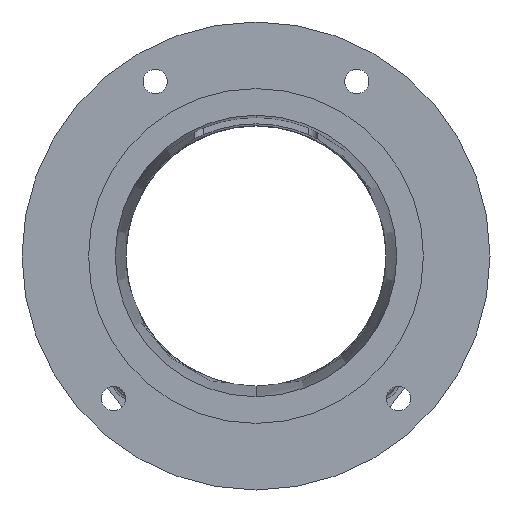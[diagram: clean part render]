
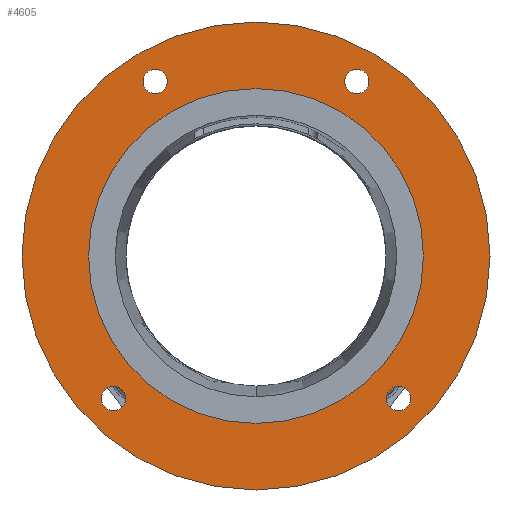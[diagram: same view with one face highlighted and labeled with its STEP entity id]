
A CAD part, front view. The second image highlights one B-rep face of the part: STEP entity #4605.
In plain terms, the highlighted planar face has unit normal (0, -1, 0).
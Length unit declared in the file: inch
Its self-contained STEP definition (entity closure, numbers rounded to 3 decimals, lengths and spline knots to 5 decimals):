
#29 = EDGE_LOOP ( 'NONE', ( #7901, #8510 ) ) ;
#73 = CARTESIAN_POINT ( 'NONE',  ( 2.74004, 0., -2.74004 ) ) ;
#101 = FACE_BOUND ( 'NONE', #5122, .T. ) ;
#136 = CARTESIAN_POINT ( 'NONE',  ( -2.74004, 0., -2.50566 ) ) ;
#143 = DIRECTION ( 'NONE',  ( 0., -1., 0. ) ) ;
#221 = DIRECTION ( 'NONE',  ( 0., -1., 0. ) ) ;
#519 = CARTESIAN_POINT ( 'NONE',  ( 0., 0., 3.2195 ) ) ;
#567 = CARTESIAN_POINT ( 'NONE',  ( 0., 0., -3.2195 ) ) ;
#625 = VERTEX_POINT ( 'NONE', #5411 ) ;
#975 = AXIS2_PLACEMENT_3D ( 'NONE', #4745, #4726, #4714 ) ;
#1123 = CIRCLE ( 'NONE', #6465, 4.5 ) ;
#1143 = DIRECTION ( 'NONE',  ( 0., 1., 0. ) ) ;
#1146 = VERTEX_POINT ( 'NONE', #519 ) ;
#1157 = AXIS2_PLACEMENT_3D ( 'NONE', #3018, #2983, #2773 ) ;
#1337 = DIRECTION ( 'NONE',  ( 0., -1., 0. ) ) ;
#1502 = EDGE_LOOP ( 'NONE', ( #8798, #8752 ) ) ;
#1537 = EDGE_CURVE ( 'NONE', #5185, #1625, #5261, .T. ) ;
#1547 = VERTEX_POINT ( 'NONE', #4983 ) ;
#1563 = FACE_OUTER_BOUND ( 'NONE', #7885, .T. ) ;
#1625 = VERTEX_POINT ( 'NONE', #3725 ) ;
#1769 = DIRECTION ( 'NONE',  ( 0., 0., -1. ) ) ;
#1804 = DIRECTION ( 'NONE',  ( 0., -1., 0. ) ) ;
#1809 = FACE_BOUND ( 'NONE', #7681, .T. ) ;
#1825 = CARTESIAN_POINT ( 'NONE',  ( 1.9375, 0., 3.35585 ) ) ;
#2072 = CARTESIAN_POINT ( 'NONE',  ( 0., 0., 0. ) ) ;
#2285 = DIRECTION ( 'NONE',  ( 0., 0., -1. ) ) ;
#2298 = DIRECTION ( 'NONE',  ( 0., -1., 0. ) ) ;
#2316 = CARTESIAN_POINT ( 'NONE',  ( -2.74004, 0., -2.74004 ) ) ;
#2319 = DIRECTION ( 'NONE',  ( 0., -1., 0. ) ) ;
#2515 = EDGE_CURVE ( 'NONE', #2774, #4789, #4592, .T. ) ;
#2540 = EDGE_CURVE ( 'NONE', #8544, #5384, #8135, .T. ) ;
#2588 = ORIENTED_EDGE ( 'NONE', *, *, #4628, .T. ) ;
#2644 = EDGE_LOOP ( 'NONE', ( #7967, #3151 ) ) ;
#2773 = DIRECTION ( 'NONE',  ( 0., 0., -1. ) ) ;
#2774 = VERTEX_POINT ( 'NONE', #136 ) ;
#2805 = CIRCLE ( 'NONE', #8133, 0.23438 ) ;
#2851 = AXIS2_PLACEMENT_3D ( 'NONE', #2072, #1337, #3518 ) ;
#2895 = DIRECTION ( 'NONE',  ( 0., 0., -1. ) ) ;
#2925 = CIRCLE ( 'NONE', #2851, 3.2195 ) ;
#2983 = DIRECTION ( 'NONE',  ( 0., -1., 0. ) ) ;
#3018 = CARTESIAN_POINT ( 'NONE',  ( -1.9375, 0., 3.35585 ) ) ;
#3151 = ORIENTED_EDGE ( 'NONE', *, *, #3173, .F. ) ;
#3173 = EDGE_CURVE ( 'NONE', #1625, #5185, #8707, .T. ) ;
#3184 = DIRECTION ( 'NONE',  ( 0., 0., 1. ) ) ;
#3292 = CARTESIAN_POINT ( 'NONE',  ( 0., 0., 4.5 ) ) ;
#3313 = EDGE_CURVE ( 'NONE', #1547, #6722, #1123, .T. ) ;
#3407 = AXIS2_PLACEMENT_3D ( 'NONE', #9146, #221, #9136 ) ;
#3495 = FACE_BOUND ( 'NONE', #1502, .T. ) ;
#3518 = DIRECTION ( 'NONE',  ( 0., 0., -1. ) ) ;
#3584 = CARTESIAN_POINT ( 'NONE',  ( 1.9375, 0., 3.59022 ) ) ;
#3652 = EDGE_CURVE ( 'NONE', #625, #5174, #6744, .T. ) ;
#3709 = FACE_BOUND ( 'NONE', #29, .T. ) ;
#3725 = CARTESIAN_POINT ( 'NONE',  ( -1.9375, 0., 3.59022 ) ) ;
#3808 = CIRCLE ( 'NONE', #5930, 0.23438 ) ;
#3989 = DIRECTION ( 'NONE',  ( 0., 0., -1. ) ) ;
#4047 = DIRECTION ( 'NONE',  ( 0., -1., 0. ) ) ;
#4077 = CARTESIAN_POINT ( 'NONE',  ( -4.5, 0., 0. ) ) ;
#4106 = CARTESIAN_POINT ( 'NONE',  ( 0., 0., 0. ) ) ;
#4114 = ORIENTED_EDGE ( 'NONE', *, *, #4460, .F. ) ;
#4165 = EDGE_CURVE ( 'NONE', #5384, #8544, #3808, .T. ) ;
#4177 = PLANE ( 'NONE',  #5096 ) ;
#4297 = EDGE_CURVE ( 'NONE', #1146, #7111, #2925, .T. ) ;
#4460 = EDGE_CURVE ( 'NONE', #4789, #2774, #6110, .T. ) ;
#4480 = DIRECTION ( 'NONE',  ( 0., 0., -1. ) ) ;
#4482 = DIRECTION ( 'NONE',  ( 0., -1., 0. ) ) ;
#4506 = CARTESIAN_POINT ( 'NONE',  ( 2.74004, 0., -2.74004 ) ) ;
#4592 = CIRCLE ( 'NONE', #6239, 0.23438 ) ;
#4605 = ADVANCED_FACE ( 'NONE', ( #7284, #1809, #3709, #101, #3495, #1563 ), #4177, .F. ) ;
#4628 = EDGE_CURVE ( 'NONE', #6722, #1547, #8715, .T. ) ;
#4714 = DIRECTION ( 'NONE',  ( 0., 0., -1. ) ) ;
#4726 = DIRECTION ( 'NONE',  ( 0., -1., 0. ) ) ;
#4745 = CARTESIAN_POINT ( 'NONE',  ( -1.9375, 0., 3.35585 ) ) ;
#4789 = VERTEX_POINT ( 'NONE', #5243 ) ;
#4830 = DIRECTION ( 'NONE',  ( 0., 0., -1. ) ) ;
#4915 = CARTESIAN_POINT ( 'NONE',  ( -2.74004, 0., -2.74004 ) ) ;
#4983 = CARTESIAN_POINT ( 'NONE',  ( 0., 0., -4.5 ) ) ;
#5069 = ORIENTED_EDGE ( 'NONE', *, *, #2540, .F. ) ;
#5096 = AXIS2_PLACEMENT_3D ( 'NONE', #4077, #1143, #3184 ) ;
#5122 = EDGE_LOOP ( 'NONE', ( #4114, #6044 ) ) ;
#5174 = VERTEX_POINT ( 'NONE', #6125 ) ;
#5185 = VERTEX_POINT ( 'NONE', #7802 ) ;
#5243 = CARTESIAN_POINT ( 'NONE',  ( -2.74004, 0., -2.97441 ) ) ;
#5261 = CIRCLE ( 'NONE', #975, 0.23438 ) ;
#5384 = VERTEX_POINT ( 'NONE', #3584 ) ;
#5411 = CARTESIAN_POINT ( 'NONE',  ( 2.74004, 0., -2.97441 ) ) ;
#5433 = EDGE_CURVE ( 'NONE', #7111, #1146, #5966, .T. ) ;
#5587 = AXIS2_PLACEMENT_3D ( 'NONE', #4106, #4047, #3989 ) ;
#5930 = AXIS2_PLACEMENT_3D ( 'NONE', #6961, #6414, #6386 ) ;
#5966 = CIRCLE ( 'NONE', #3407, 3.2195 ) ;
#6018 = CARTESIAN_POINT ( 'NONE',  ( 1.9375, 0., 3.12147 ) ) ;
#6044 = ORIENTED_EDGE ( 'NONE', *, *, #2515, .F. ) ;
#6110 = CIRCLE ( 'NONE', #8589, 0.23438 ) ;
#6125 = CARTESIAN_POINT ( 'NONE',  ( 2.74004, 0., -2.50566 ) ) ;
#6239 = AXIS2_PLACEMENT_3D ( 'NONE', #2316, #2298, #2285 ) ;
#6301 = EDGE_CURVE ( 'NONE', #5174, #625, #2805, .T. ) ;
#6386 = DIRECTION ( 'NONE',  ( 0., 0., -1. ) ) ;
#6414 = DIRECTION ( 'NONE',  ( 0., -1., 0. ) ) ;
#6465 = AXIS2_PLACEMENT_3D ( 'NONE', #8120, #8089, #8054 ) ;
#6489 = ORIENTED_EDGE ( 'NONE', *, *, #3313, .T. ) ;
#6722 = VERTEX_POINT ( 'NONE', #3292 ) ;
#6744 = CIRCLE ( 'NONE', #6779, 0.23438 ) ;
#6779 = AXIS2_PLACEMENT_3D ( 'NONE', #73, #143, #2895 ) ;
#6961 = CARTESIAN_POINT ( 'NONE',  ( 1.9375, 0., 3.35585 ) ) ;
#7111 = VERTEX_POINT ( 'NONE', #567 ) ;
#7284 = FACE_BOUND ( 'NONE', #2644, .T. ) ;
#7681 = EDGE_LOOP ( 'NONE', ( #5069, #8667 ) ) ;
#7802 = CARTESIAN_POINT ( 'NONE',  ( -1.9375, 0., 3.12147 ) ) ;
#7885 = EDGE_LOOP ( 'NONE', ( #6489, #2588 ) ) ;
#7901 = ORIENTED_EDGE ( 'NONE', *, *, #3652, .F. ) ;
#7967 = ORIENTED_EDGE ( 'NONE', *, *, #1537, .F. ) ;
#8054 = DIRECTION ( 'NONE',  ( 0., 0., -1. ) ) ;
#8089 = DIRECTION ( 'NONE',  ( 0., -1., 0. ) ) ;
#8120 = CARTESIAN_POINT ( 'NONE',  ( 0., 0., 0. ) ) ;
#8133 = AXIS2_PLACEMENT_3D ( 'NONE', #4506, #4482, #4480 ) ;
#8135 = CIRCLE ( 'NONE', #8579, 0.23438 ) ;
#8510 = ORIENTED_EDGE ( 'NONE', *, *, #6301, .F. ) ;
#8544 = VERTEX_POINT ( 'NONE', #6018 ) ;
#8579 = AXIS2_PLACEMENT_3D ( 'NONE', #1825, #1804, #1769 ) ;
#8589 = AXIS2_PLACEMENT_3D ( 'NONE', #4915, #2319, #4830 ) ;
#8667 = ORIENTED_EDGE ( 'NONE', *, *, #4165, .F. ) ;
#8707 = CIRCLE ( 'NONE', #1157, 0.23438 ) ;
#8715 = CIRCLE ( 'NONE', #5587, 4.5 ) ;
#8752 = ORIENTED_EDGE ( 'NONE', *, *, #4297, .F. ) ;
#8798 = ORIENTED_EDGE ( 'NONE', *, *, #5433, .F. ) ;
#9136 = DIRECTION ( 'NONE',  ( 0., 0., -1. ) ) ;
#9146 = CARTESIAN_POINT ( 'NONE',  ( 0., 0., 0. ) ) ;
